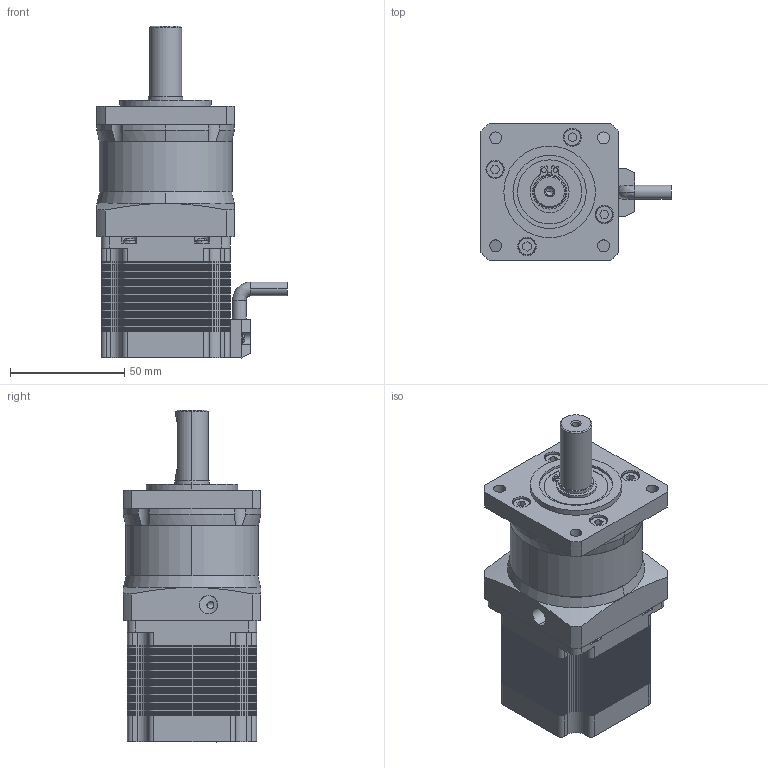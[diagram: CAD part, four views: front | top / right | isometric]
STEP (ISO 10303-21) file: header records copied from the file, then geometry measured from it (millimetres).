
FILE_DESCRIPTION (( 'STEP AP203' ), '1' );
FILE_NAME ('57CM12C-RD05.STEP', '2021-04-19T10:36:40', ( 'Owner' ), ( 'Organization' ), 'SwSTEP 2.0', 'SolidWorks 2018', '' );
FILE_SCHEMA (( 'CONFIG_CONTROL_DESIGN' ));
Length unit declared in the file: millimetre
Products named in the file (11): 57綴傷_1; 57竘堤盄_1; PLF60-输入轴_1; 57ヶ傷_1; M4内六角螺丝头 - 副本_1; 57CM12C-RD05; PLF60怀堤傷_1; 57沺郋_1; PLF60输入端_1; 60齿圈1_1; 15俋縐_1
Assembly tree (19 placements, depth 2):
  57CM12C-RD05
    PLF60怀堤傷_1
    M4内六角螺丝头 - 副本_1  x10
    15俋縐_1
    60齿圈1_1
    PLF60输入端_1
    PLF60-输入轴_1
    57沺郋_1
    57綴傷_1
    57竘堤盄_1
    57ヶ傷_1
Bounding box: 83.05 x 60 x 145 mm (x, y, z)
Volume: 325469.2 mm3; surface area: 419008.9 mm2
Topology: 79 solids, 79 shells, 2238 faces, 6040 edges, 4002 vertices
Faces by surface type: plane 1160, cylinder 1002, cone 40, bspline 36
Entity records: 69681 total; most frequent: CARTESIAN_POINT 13070, DIRECTION 11853, ORIENTED_EDGE 11504, EDGE_CURVE 5752, AXIS2_PLACEMENT_3D 4123, VERTEX_POINT 3822, VECTOR 3607, LINE 3607
